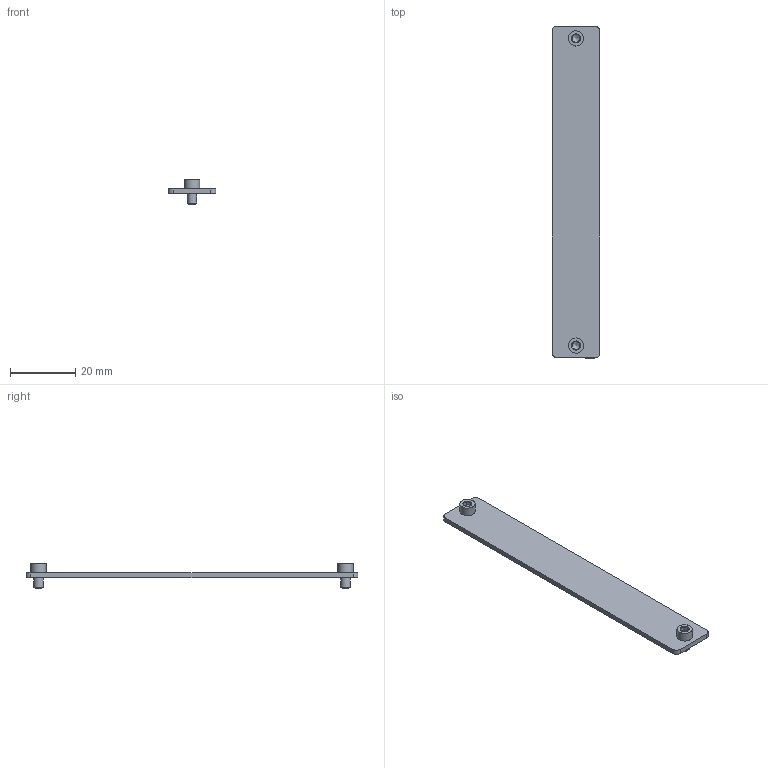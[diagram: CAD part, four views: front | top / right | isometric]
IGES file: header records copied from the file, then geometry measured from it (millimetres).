
Global section: file name: 562189-RevA-IGS; native system: Autodesk Inventor 2014; preprocessor: unknown; author: glen; date: 20150824.121842; units: inch
Bounding box: 14.61 x 101.6 x 7.61 mm (x, y, z)
Volume: 2375.1 mm3; surface area: 3565.9 mm2
Topology: 3 solids, 3 shells, 52 faces, 138 edges, 94 vertices
Faces by surface type: bspline 52
